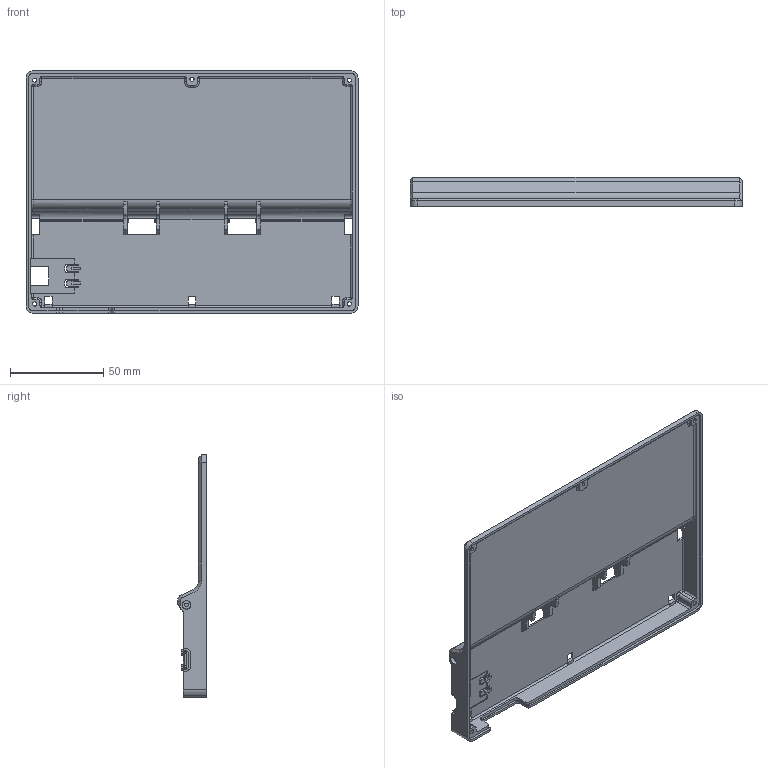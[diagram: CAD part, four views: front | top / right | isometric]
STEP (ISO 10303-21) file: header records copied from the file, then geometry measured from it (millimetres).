
FILE_DESCRIPTION((''),'2;1');
FILE_NAME('00','2025-04-08T12:11:38',('seeed'),(''),'CREO PARAMETRIC BY PTC INC, 2021404','CREO PARAMETRIC BY PTC INC, 2021404','');
FILE_SCHEMA(('AUTOMOTIVE_DESIGN { 1 0 10303 214 1 1 1 1 }'));
Length unit declared in the file: millimetre
Products named in the file (1): 00
Bounding box: 178 x 15.53 x 130 mm (x, y, z)
Volume: 45021.7 mm3; surface area: 56715.7 mm2
Topology: 1 solids, 1 shells, 367 faces, 1055 edges, 710 vertices
Faces by surface type: plane 188, cylinder 145, torus 14, sphere 10, cone 6, bspline 4
Entity records: 12909 total; most frequent: CARTESIAN_POINT 2245, DIRECTION 2131, ORIENTED_EDGE 2046, EDGE_CURVE 1023, VECTOR 715, LINE 715, AXIS2_PLACEMENT_3D 708, VERTEX_POINT 654
